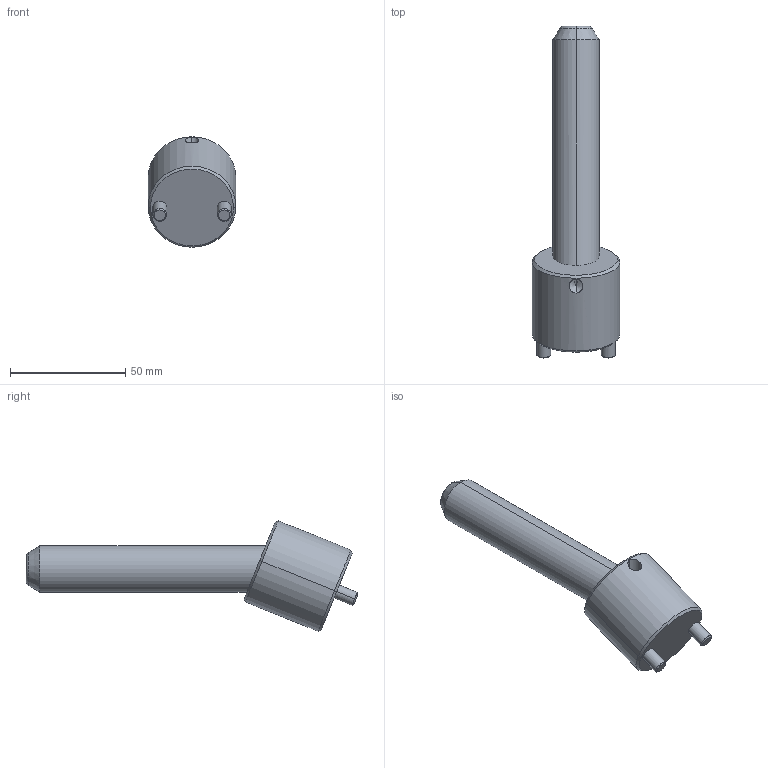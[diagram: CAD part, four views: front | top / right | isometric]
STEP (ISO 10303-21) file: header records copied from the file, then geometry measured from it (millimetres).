
FILE_DESCRIPTION(('CATIA V5 STEP Exchange'),'2;1');
FILE_NAME('C:\Users\Raffaele\Desktop\3D BOLEX\3D FILES CF BOLEX\19-INCLINED ASSEMBLY REF_CI\CI2220100.stp','2019-06-24T06:49:31+00:00',('none'),('none'),'CATIA Version 5 Release 20 GA (IN-10)','CATIA V5 STEP AP203','none');
FILE_SCHEMA(('CONFIG_CONTROL_DESIGN'));
Length unit declared in the file: millimetre
Products named in the file (1): CI2220100
Assembly tree (2 placements, depth 2):
  CI2220100
    #58
    #572
Bounding box: 38 x 144.16 x 47.97 mm (x, y, z)
Volume: 71553 mm3; surface area: 17404 mm2
Topology: 2 solids, 2 shells, 39 faces, 82 edges, 47 vertices
Faces by surface type: cone 14, cylinder 14, plane 7, torus 4
Entity records: 1512 total; most frequent: CARTESIAN_POINT 655, ORIENTED_EDGE 160, DIRECTION 144, EDGE_CURVE 80, AXIS2_PLACEMENT_3D 71, VERTEX_POINT 47, EDGE_LOOP 43, ADVANCED_FACE 39
